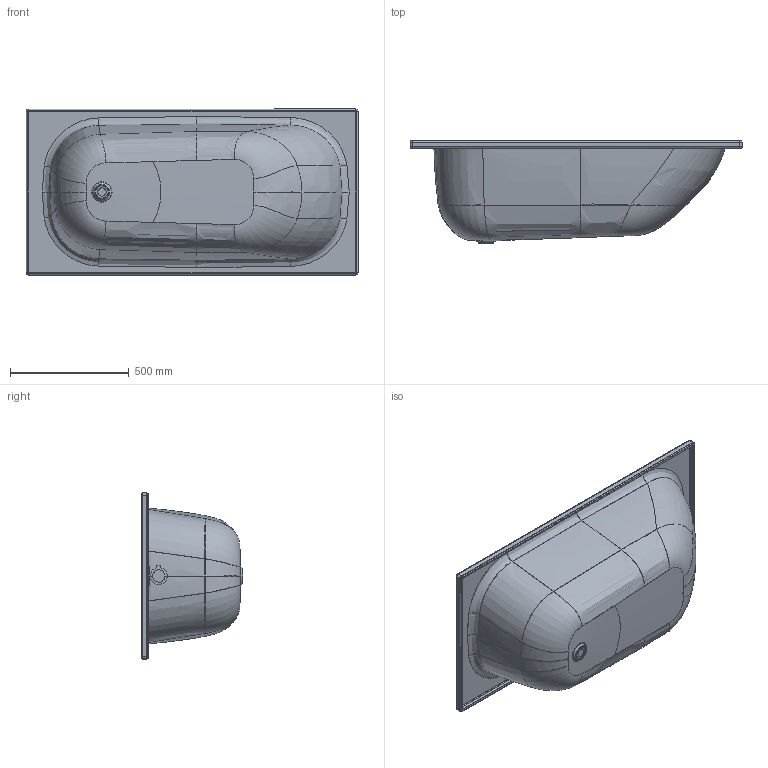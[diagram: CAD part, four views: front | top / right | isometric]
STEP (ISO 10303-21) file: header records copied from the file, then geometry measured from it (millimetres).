
FILE_DESCRIPTION((' '),'2;1');
FILE_NAME( '177da2bb2e4012c3.stp', '2021-02-25T18:10:33', (' '), ('--- Datakit www.datakit.com---'), ' Datakit CrossCadWare V2021.1 Jan 6 2021', 'DATAKIT 2021 (c)', ' ');
FILE_SCHEMA(('CONFIG_CONTROL_DESIGN'));
Length unit declared in the file: millimetre
Products named in the file (1): 177d339c57bb3ac3
Bounding box: 1400 x 430 x 700 mm (x, y, z)
Volume: 5007059.7 mm3; surface area: 3880039.2 mm2
Topology: 3 solids, 3 shells, 173 faces, 403 edges, 237 vertices
Faces by surface type: bspline 52, cylinder 34, torus 32, plane 27, offset 24, cone 4
Full cylindrical faces by diameter (mm): 35 x1, 52 x2
Entity records: 59051 total; most frequent: CARTESIAN_POINT 55650, ORIENTED_EDGE 766, DIRECTION 542, EDGE_CURVE 383, VERTEX_POINT 233, AXIS2_PLACEMENT_3D 231, EDGE_LOOP 193, ADVANCED_FACE 173
